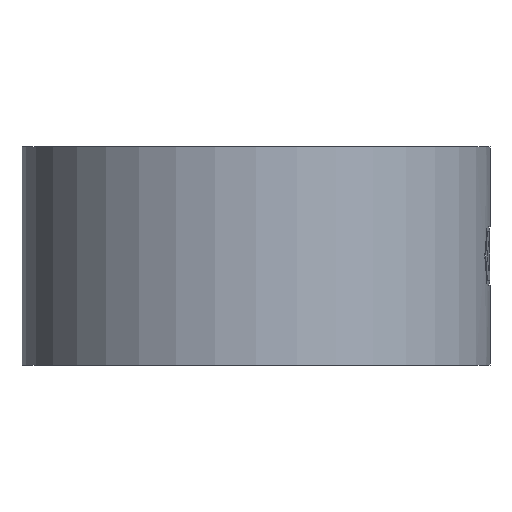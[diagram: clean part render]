
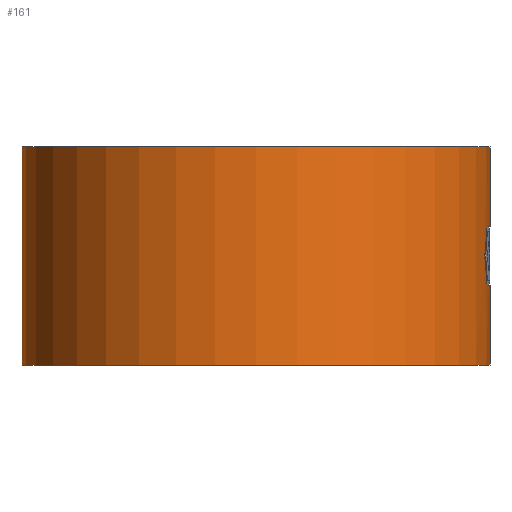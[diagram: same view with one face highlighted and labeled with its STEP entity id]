
A CAD part, front view. The second image highlights one B-rep face of the part: STEP entity #161.
In plain terms, the highlighted cylindrical face has radius 16.1 mm (diameter 32.2 mm), a partial arc.
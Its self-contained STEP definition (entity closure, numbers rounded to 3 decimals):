
#2 = ORIENTED_EDGE ( 'NONE', *, *, #123, .F. ) ;
#3 = EDGE_CURVE ( 'NONE', #127, #124, #487, .T. ) ;
#4 = ORIENTED_EDGE ( 'NONE', *, *, #111, .T. ) ;
#6 = VERTEX_POINT ( 'NONE', #479 ) ;
#11 = EDGE_CURVE ( 'NONE', #149, #13, #624, .T. ) ;
#12 = ORIENTED_EDGE ( 'NONE', *, *, #11, .F. ) ;
#13 = VERTEX_POINT ( 'NONE', #620 ) ;
#73 = EDGE_CURVE ( 'NONE', #140, #149, #665, .T. ) ;
#84 = VERTEX_POINT ( 'NONE', #725 ) ;
#110 = ORIENTED_EDGE ( 'NONE', *, *, #3, .T. ) ;
#111 = EDGE_CURVE ( 'NONE', #6, #112, #743, .T. ) ;
#112 = VERTEX_POINT ( 'NONE', #744 ) ;
#113 = ORIENTED_EDGE ( 'NONE', *, *, #114, .F. ) ;
#114 = EDGE_CURVE ( 'NONE', #13, #112, #649, .T. ) ;
#115 = ORIENTED_EDGE ( 'NONE', *, *, #73, .F. ) ;
#116 = EDGE_LOOP ( 'NONE', ( #115, #268, #170, #110, #2, #304, #4, #113, #12 ) ) ;
#123 = EDGE_CURVE ( 'NONE', #84, #124, #702, .T. ) ;
#124 = VERTEX_POINT ( 'NONE', #692 ) ;
#127 = VERTEX_POINT ( 'NONE', #686 ) ;
#129 = EDGE_CURVE ( 'NONE', #147, #127, #685, .T. ) ;
#140 = VERTEX_POINT ( 'NONE', #901 ) ;
#147 = VERTEX_POINT ( 'NONE', #936 ) ;
#149 = VERTEX_POINT ( 'NONE', #769 ) ;
#161 = ADVANCED_FACE ( 'NONE', ( #865 ), #864, .T. ) ;
#170 = ORIENTED_EDGE ( 'NONE', *, *, #129, .T. ) ;
#267 = EDGE_CURVE ( 'NONE', #6, #84, #1136, .T. ) ;
#268 = ORIENTED_EDGE ( 'NONE', *, *, #269, .F. ) ;
#269 = EDGE_CURVE ( 'NONE', #147, #140, #1133, .T. ) ;
#304 = ORIENTED_EDGE ( 'NONE', *, *, #267, .F. ) ;
#479 = CARTESIAN_POINT ( 'NONE',  ( 15.892, -2.582, 5.5 ) ) ;
#484 = DIRECTION ( 'NONE',  ( 1., 0., 0. ) ) ;
#485 = DIRECTION ( 'NONE',  ( 0., 0., 1. ) ) ;
#486 = AXIS2_PLACEMENT_3D ( 'NONE', #493, #485, #484 ) ;
#487 = CIRCLE ( 'NONE', #486, 16.1 ) ;
#493 = CARTESIAN_POINT ( 'NONE',  ( 0., 0., 0. ) ) ;
#620 = CARTESIAN_POINT ( 'NONE',  ( 15.892, -2.582, 9.5 ) ) ;
#621 = DIRECTION ( 'NONE',  ( 0., 1., 0. ) ) ;
#622 = DIRECTION ( 'NONE',  ( 0., 0., -1. ) ) ;
#623 = AXIS2_PLACEMENT_3D ( 'NONE', #630, #622, #621 ) ;
#624 = CIRCLE ( 'NONE', #623, 16.1 ) ;
#630 = CARTESIAN_POINT ( 'NONE',  ( 0., 0., 9.5 ) ) ;
#646 = CARTESIAN_POINT ( 'NONE',  ( 15.847, -2.859, 8.83 ) ) ;
#647 = CARTESIAN_POINT ( 'NONE',  ( 15.892, -2.582, 9.5 ) ) ;
#649 = B_SPLINE_CURVE_WITH_KNOTS ( 'NONE', 3,
 ( #647, #646, #708, #707 ),
 .UNSPECIFIED., .F., .F.,
 ( 4, 4 ),
 ( 0., 1. ),
 .UNSPECIFIED. ) ;
#651 = CARTESIAN_POINT ( 'NONE',  ( 15.735, -3.41, 7.5 ) ) ;
#652 = CARTESIAN_POINT ( 'NONE',  ( 15.792, -3.148, 6.867 ) ) ;
#653 = CARTESIAN_POINT ( 'NONE',  ( 15.845, -2.872, 6.201 ) ) ;
#654 = CARTESIAN_POINT ( 'NONE',  ( 15.892, -2.582, 5.5 ) ) ;
#662 = DIRECTION ( 'NONE',  ( 0., 0., -1. ) ) ;
#663 = VECTOR ( 'NONE', #662, 1000. ) ;
#664 = CARTESIAN_POINT ( 'NONE',  ( 16.1, 0., 15. ) ) ;
#665 = LINE ( 'NONE', #664, #663 ) ;
#682 = DIRECTION ( 'NONE',  ( 0., 0., -1. ) ) ;
#683 = VECTOR ( 'NONE', #682, 1000. ) ;
#684 = CARTESIAN_POINT ( 'NONE',  ( -16.1, 0., 15. ) ) ;
#685 = LINE ( 'NONE', #684, #683 ) ;
#686 = CARTESIAN_POINT ( 'NONE',  ( -16.1, 0., 0. ) ) ;
#692 = CARTESIAN_POINT ( 'NONE',  ( 16.1, 0., 0. ) ) ;
#693 = DIRECTION ( 'NONE',  ( 0., 0., -1. ) ) ;
#694 = VECTOR ( 'NONE', #693, 1000. ) ;
#695 = CARTESIAN_POINT ( 'NONE',  ( 16.1, 0., 15. ) ) ;
#702 = LINE ( 'NONE', #695, #694 ) ;
#707 = CARTESIAN_POINT ( 'NONE',  ( 15.735, -3.41, 7.5 ) ) ;
#708 = CARTESIAN_POINT ( 'NONE',  ( 15.794, -3.135, 8.163 ) ) ;
#725 = CARTESIAN_POINT ( 'NONE',  ( 16.1, 0., 5.5 ) ) ;
#743 = B_SPLINE_CURVE_WITH_KNOTS ( 'NONE', 3,
 ( #654, #653, #652, #651 ),
 .UNSPECIFIED., .F., .F.,
 ( 4, 4 ),
 ( 0., 1. ),
 .UNSPECIFIED. ) ;
#744 = CARTESIAN_POINT ( 'NONE',  ( 15.735, -3.41, 7.5 ) ) ;
#769 = CARTESIAN_POINT ( 'NONE',  ( 16.1, 0., 9.5 ) ) ;
#859 = DIRECTION ( 'NONE',  ( -1., 0., 0. ) ) ;
#860 = DIRECTION ( 'NONE',  ( 0., 0., -1. ) ) ;
#861 = CARTESIAN_POINT ( 'NONE',  ( 0., 0., 15. ) ) ;
#862 = AXIS2_PLACEMENT_3D ( 'NONE', #861, #860, #859 ) ;
#864 = CYLINDRICAL_SURFACE ( 'NONE', #862, 16.1 ) ;
#865 = FACE_OUTER_BOUND ( 'NONE', #116, .T. ) ;
#901 = CARTESIAN_POINT ( 'NONE',  ( 16.1, 0., 15. ) ) ;
#936 = CARTESIAN_POINT ( 'NONE',  ( -16.1, 0., 15. ) ) ;
#1129 = DIRECTION ( 'NONE',  ( 1., 0., 0. ) ) ;
#1130 = DIRECTION ( 'NONE',  ( 0., 0., 1. ) ) ;
#1131 = CARTESIAN_POINT ( 'NONE',  ( 0., 0., 15. ) ) ;
#1132 = AXIS2_PLACEMENT_3D ( 'NONE', #1131, #1130, #1129 ) ;
#1133 = CIRCLE ( 'NONE', #1132, 16.1 ) ;
#1134 = CARTESIAN_POINT ( 'NONE',  ( 0., 0., 5.5 ) ) ;
#1135 = AXIS2_PLACEMENT_3D ( 'NONE', #1134, #1172, #1171 ) ;
#1136 = CIRCLE ( 'NONE', #1135, 16.1 ) ;
#1171 = DIRECTION ( 'NONE',  ( 1., 0., 0. ) ) ;
#1172 = DIRECTION ( 'NONE',  ( 0., 0., 1. ) ) ;
